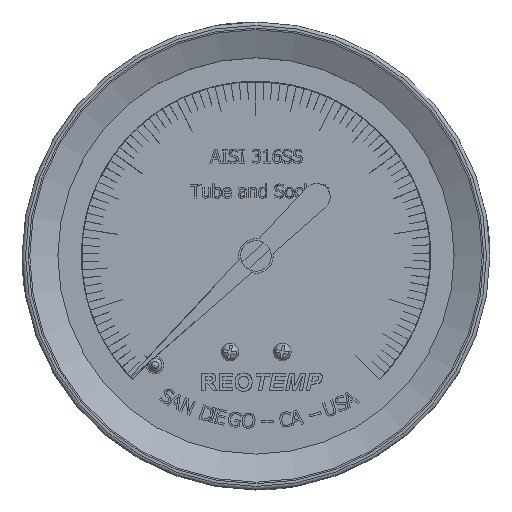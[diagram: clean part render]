
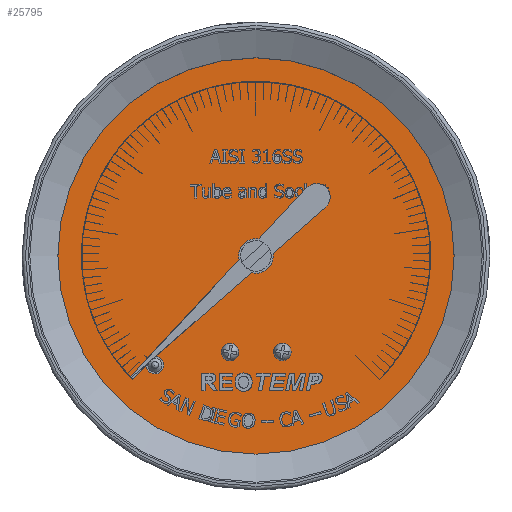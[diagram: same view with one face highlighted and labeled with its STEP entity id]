
A CAD part, top view. The second image highlights one B-rep face of the part: STEP entity #25795.
In plain terms, the highlighted planar face has unit normal (0, 0, -1).
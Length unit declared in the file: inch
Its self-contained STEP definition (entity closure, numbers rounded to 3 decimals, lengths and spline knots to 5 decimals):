
#7135=PLANE($,#27054);
#7306=FACE_BOUND($,#10087,.T.);
#7307=FACE_BOUND($,#10088,.T.);
#10087=EDGE_LOOP($,(#23196));
#10088=EDGE_LOOP($,(#23197));
#10333=CIRCLE($,#27053,1.135);
#10334=CIRCLE($,#27055,0.05);
#12664=VERTEX_POINT($,#44442);
#12665=VERTEX_POINT($,#44445);
#16164=EDGE_CURVE($,#12664,#12664,#10333,.T.);
#16165=EDGE_CURVE($,#12665,#12665,#10334,.T.);
#23196=ORIENTED_EDGE($,*,*,#16165,.T.);
#23197=ORIENTED_EDGE($,*,*,#16164,.F.);
#25795=ADVANCED_FACE($,(#7306,#7307),#7135,.F.);
#27053=AXIS2_PLACEMENT_3D($,#44443,#32180,#32181);
#27054=AXIS2_PLACEMENT_3D($,#44444,#32182,#32183);
#27055=AXIS2_PLACEMENT_3D($,#44446,#32184,#32185);
#32180=DIRECTION('center_axis',(0.,0.,
1.));
#32181=DIRECTION('ref_axis',(0.,1.,0.));
#32182=DIRECTION('center_axis',(0.,0.,
1.));
#32183=DIRECTION('ref_axis',(0.731,-0.682,0.));
#32184=DIRECTION('center_axis',(0.,0.,
1.));
#32185=DIRECTION('ref_axis',(-0.033,0.999,0.));
#44442=CARTESIAN_POINT('',(-0.2615,-1.00966,0.31587));
#44443=CARTESIAN_POINT('Origin',(-0.2615,0.12534,0.31587));
#44444=CARTESIAN_POINT('Origin',(-0.2615,0.12534,0.31587));
#44445=CARTESIAN_POINT('',(-0.83871,-0.55025,0.31587));
#44446=CARTESIAN_POINT('Origin',(-0.84038,-0.50028,
0.31587));
